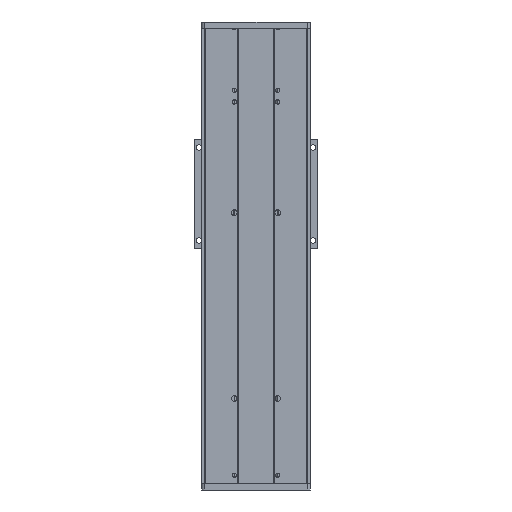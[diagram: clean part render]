
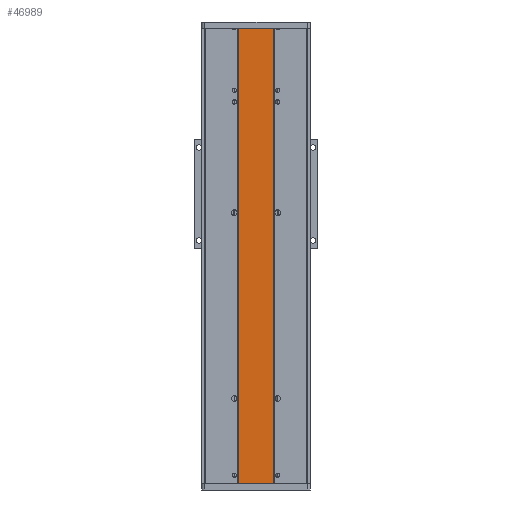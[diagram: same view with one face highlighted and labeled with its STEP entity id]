
A CAD part, front view. The second image highlights one B-rep face of the part: STEP entity #46989.
In plain terms, the highlighted planar face has unit normal (0, -1, 0).
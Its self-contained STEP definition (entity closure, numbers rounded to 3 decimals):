
#1490 = EDGE_CURVE ( 'NONE', #44255, #22007, #47122, .T. ) ;
#2575 = EDGE_LOOP ( 'NONE', ( #21086, #44971, #48341, #15674 ) ) ;
#5674 = CARTESIAN_POINT ( 'NONE',  ( 58.27, -78.814, 0. ) ) ;
#5709 = CARTESIAN_POINT ( 'NONE',  ( 0., -78.814, 0. ) ) ;
#6146 = VERTEX_POINT ( 'NONE', #5674 ) ;
#7189 = CARTESIAN_POINT ( 'NONE',  ( 1.27, -78.814, 0. ) ) ;
#8453 = CARTESIAN_POINT ( 'NONE',  ( 1.27, -78.814, 1395. ) ) ;
#8961 = VERTEX_POINT ( 'NONE', #18863 ) ;
#10047 = LINE ( 'NONE', #35197, #40592 ) ;
#10501 = EDGE_CURVE ( 'NONE', #44255, #8961, #10047, .T. ) ;
#11158 = DIRECTION ( 'NONE',  ( 1., 0., 0. ) ) ;
#12348 = CARTESIAN_POINT ( 'NONE',  ( 58.27, -78.814, 1395. ) ) ;
#12421 = DIRECTION ( 'NONE',  ( 0., 0., -1. ) ) ;
#15674 = ORIENTED_EDGE ( 'NONE', *, *, #10501, .F. ) ;
#16387 = LINE ( 'NONE', #12348, #29542 ) ;
#17807 = CARTESIAN_POINT ( 'NONE',  ( 1.27, -78.814, 1395. ) ) ;
#18276 = VECTOR ( 'NONE', #21161, 1000. ) ;
#18863 = CARTESIAN_POINT ( 'NONE',  ( 58.27, -78.814, 735. ) ) ;
#20308 = EDGE_CURVE ( 'NONE', #8961, #6146, #16387, .T. ) ;
#20852 = AXIS2_PLACEMENT_3D ( 'NONE', #17807, #21844, #49703 ) ;
#21086 = ORIENTED_EDGE ( 'NONE', *, *, #1490, .T. ) ;
#21161 = DIRECTION ( 'NONE',  ( 1., 0., 0. ) ) ;
#21844 = DIRECTION ( 'NONE',  ( 0., -1., 0. ) ) ;
#22007 = VERTEX_POINT ( 'NONE', #7189 ) ;
#25953 = VECTOR ( 'NONE', #12421, 1000. ) ;
#26830 = CARTESIAN_POINT ( 'NONE',  ( 1.27, -78.814, 735. ) ) ;
#27829 = FACE_OUTER_BOUND ( 'NONE', #2575, .T. ) ;
#29542 = VECTOR ( 'NONE', #44268, 1000. ) ;
#32637 = EDGE_CURVE ( 'NONE', #22007, #6146, #39529, .T. ) ;
#35197 = CARTESIAN_POINT ( 'NONE',  ( 0., -78.814, 735. ) ) ;
#39529 = LINE ( 'NONE', #5709, #18276 ) ;
#40592 = VECTOR ( 'NONE', #11158, 1000. ) ;
#41750 = PLANE ( 'NONE',  #20852 ) ;
#44255 = VERTEX_POINT ( 'NONE', #26830 ) ;
#44268 = DIRECTION ( 'NONE',  ( 0., 0., -1. ) ) ;
#44971 = ORIENTED_EDGE ( 'NONE', *, *, #32637, .T. ) ;
#46989 = ADVANCED_FACE ( 'NONE', ( #27829 ), #41750, .T. ) ;
#47122 = LINE ( 'NONE', #8453, #25953 ) ;
#48341 = ORIENTED_EDGE ( 'NONE', *, *, #20308, .F. ) ;
#49703 = DIRECTION ( 'NONE',  ( 0., 0., -1. ) ) ;
